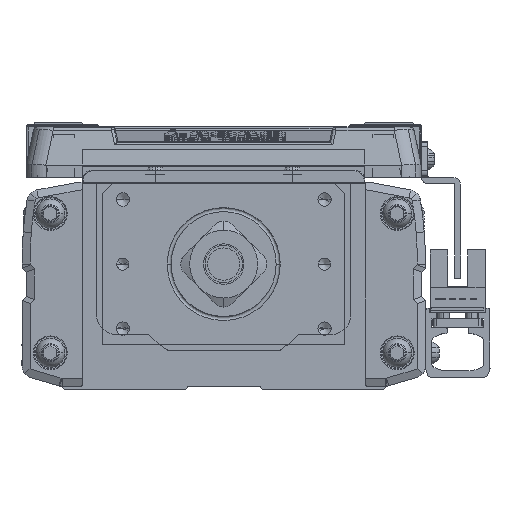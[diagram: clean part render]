
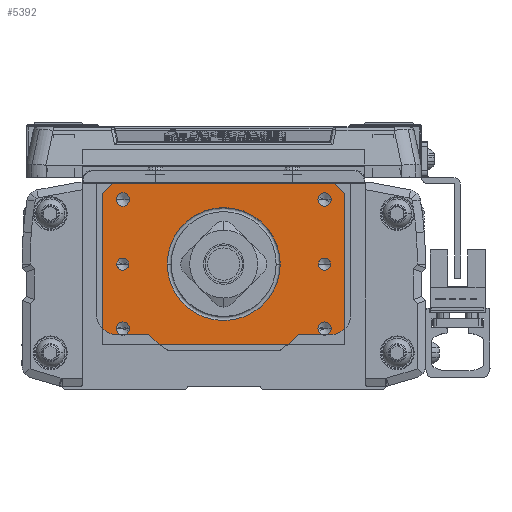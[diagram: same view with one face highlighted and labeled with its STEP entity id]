
A CAD part, left-side view. The second image highlights one B-rep face of the part: STEP entity #5392.
In plain terms, the highlighted planar face has unit normal (-1, 0, 0).
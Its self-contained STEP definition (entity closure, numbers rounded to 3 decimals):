
#5392=ADVANCED_FACE('',(#11856,#11857,#11858,#11859,#11860,#11861,#11862,#11863),#11864,.T.);
#11856=FACE_BOUND('',#20026,.T.);
#11857=FACE_BOUND('',#20027,.T.);
#11858=FACE_BOUND('',#20028,.T.);
#11859=FACE_BOUND('',#20029,.T.);
#11860=FACE_BOUND('',#20030,.T.);
#11861=FACE_BOUND('',#20031,.T.);
#11862=FACE_BOUND('',#20032,.T.);
#11863=FACE_OUTER_BOUND('',#20033,.T.);
#11864=PLANE('',#20034);
#20026=EDGE_LOOP('',(#34911,#34912));
#20027=EDGE_LOOP('',(#34913,#34914));
#20028=EDGE_LOOP('',(#34915,#34916));
#20029=EDGE_LOOP('',(#34917,#34918));
#20030=EDGE_LOOP('',(#34919,#34920));
#20031=EDGE_LOOP('',(#34921,#34922));
#20032=EDGE_LOOP('',(#34923,#34924,#34925));
#20033=EDGE_LOOP('',(#34926,#34927,#34928,#34929,#34930,#34931));
#20034=AXIS2_PLACEMENT_3D('',#34932,#34933,#34934);
#34911=ORIENTED_EDGE('',*,*,#47360,.T.);
#34912=ORIENTED_EDGE('',*,*,#50774,.T.);
#34913=ORIENTED_EDGE('',*,*,#52187,.T.);
#34914=ORIENTED_EDGE('',*,*,#48350,.T.);
#34915=ORIENTED_EDGE('',*,*,#52188,.T.);
#34916=ORIENTED_EDGE('',*,*,#48014,.T.);
#34917=ORIENTED_EDGE('',*,*,#52189,.T.);
#34918=ORIENTED_EDGE('',*,*,#48420,.T.);
#34919=ORIENTED_EDGE('',*,*,#52190,.T.);
#34920=ORIENTED_EDGE('',*,*,#47131,.T.);
#34921=ORIENTED_EDGE('',*,*,#49184,.T.);
#34922=ORIENTED_EDGE('',*,*,#52191,.T.);
#34923=ORIENTED_EDGE('',*,*,#52192,.T.);
#34924=ORIENTED_EDGE('',*,*,#51885,.T.);
#34925=ORIENTED_EDGE('',*,*,#52193,.T.);
#34926=ORIENTED_EDGE('',*,*,#49572,.F.);
#34927=ORIENTED_EDGE('',*,*,#48113,.F.);
#34928=ORIENTED_EDGE('',*,*,#52194,.T.);
#34929=ORIENTED_EDGE('',*,*,#52195,.T.);
#34930=ORIENTED_EDGE('',*,*,#52196,.F.);
#34931=ORIENTED_EDGE('',*,*,#52197,.T.);
#34932=CARTESIAN_POINT('',(-580.,0.,-20.));
#34933=DIRECTION('',(-1.0,0.,0.));
#34934=DIRECTION('',(0.,-1.0,0.));
#47131=EDGE_CURVE('',#56421,#56418,#56422,.T.);
#47360=EDGE_CURVE('',#56820,#56823,#56825,.T.);
#48014=EDGE_CURVE('',#57970,#57967,#57971,.T.);
#48113=EDGE_CURVE('',#58146,#58142,#58148,.T.);
#48350=EDGE_CURVE('',#58545,#58542,#58546,.T.);
#48420=EDGE_CURVE('',#58665,#58662,#58666,.T.);
#49184=EDGE_CURVE('',#59925,#59930,#59932,.T.);
#49572=EDGE_CURVE('',#58142,#60565,#60566,.T.);
#50774=EDGE_CURVE('',#56823,#56820,#62436,.T.);
#51885=EDGE_CURVE('',#64020,#64024,#64026,.T.);
#52187=EDGE_CURVE('',#58542,#58545,#64443,.T.);
#52188=EDGE_CURVE('',#57967,#57970,#64444,.T.);
#52189=EDGE_CURVE('',#58662,#58665,#64445,.T.);
#52190=EDGE_CURVE('',#56418,#56421,#64446,.T.);
#52191=EDGE_CURVE('',#59930,#59925,#64447,.T.);
#52192=EDGE_CURVE('',#64448,#64020,#64449,.T.);
#52193=EDGE_CURVE('',#64024,#64448,#64450,.T.);
#52194=EDGE_CURVE('',#58146,#64451,#64452,.T.);
#52195=EDGE_CURVE('',#64451,#64453,#64454,.T.);
#52196=EDGE_CURVE('',#64455,#64453,#64456,.T.);
#52197=EDGE_CURVE('',#64455,#60565,#64457,.T.);
#56418=VERTEX_POINT('',#69873);
#56421=VERTEX_POINT('',#69877);
#56422=CIRCLE('',#69878,1.65);
#56820=VERTEX_POINT('',#70370);
#56823=VERTEX_POINT('',#70374);
#56825=CIRCLE('',#70377,1.5);
#57967=VERTEX_POINT('',#72048);
#57970=VERTEX_POINT('',#72052);
#57971=CIRCLE('',#72053,1.65);
#58142=VERTEX_POINT('',#72277);
#58146=VERTEX_POINT('',#72283);
#58148=LINE('',#72286,#72287);
#58542=VERTEX_POINT('',#72846);
#58545=VERTEX_POINT('',#72850);
#58546=CIRCLE('',#72851,1.5);
#58662=VERTEX_POINT('',#73011);
#58665=VERTEX_POINT('',#73015);
#58666=CIRCLE('',#73016,1.65);
#59925=VERTEX_POINT('',#74797);
#59930=VERTEX_POINT('',#74803);
#59932=CIRCLE('',#74806,1.65);
#60565=VERTEX_POINT('',#75690);
#60566=LINE('',#75691,#75692);
#62436=CIRCLE('',#78242,1.5);
#64020=VERTEX_POINT('',#80517);
#64024=VERTEX_POINT('',#80521);
#64026=CIRCLE('',#80523,14.0);
#64443=CIRCLE('',#81191,1.5);
#64444=CIRCLE('',#81192,1.65);
#64445=CIRCLE('',#81193,1.65);
#64446=CIRCLE('',#81194,1.65);
#64447=CIRCLE('',#81195,1.65);
#64448=VERTEX_POINT('',#81196);
#64449=CIRCLE('',#81197,14.0);
#64450=CIRCLE('',#81198,14.0);
#64451=VERTEX_POINT('',#81199);
#64452=LINE('',#81200,#81201);
#64453=VERTEX_POINT('',#81202);
#64454=LINE('',#81203,#81204);
#64455=VERTEX_POINT('',#81205);
#64456=LINE('',#81206,#81207);
#64457=LINE('',#81208,#81209);
#69873=CARTESIAN_POINT('',(-580.,26.65,16.));
#69877=CARTESIAN_POINT('',(-580.,23.35,16.));
#69878=AXIS2_PLACEMENT_3D('',#87006,#87007,#87008);
#70370=CARTESIAN_POINT('',(-580.,-26.5,0.));
#70374=CARTESIAN_POINT('',(-580.,-23.5,0.));
#70377=AXIS2_PLACEMENT_3D('',#87384,#87385,#87386);
#72048=CARTESIAN_POINT('',(-580.,-26.65,-16.));
#72052=CARTESIAN_POINT('',(-580.,-23.35,-16.));
#72053=AXIS2_PLACEMENT_3D('',#88273,#88274,#88275);
#72277=CARTESIAN_POINT('',(-580.,30.,17.5));
#72283=CARTESIAN_POINT('',(-580.,30.,-20.));
#72286=CARTESIAN_POINT('',(-580.,30.,-20.));
#72287=VECTOR('',#88401,10.0);
#72846=CARTESIAN_POINT('',(-580.,26.5,0.));
#72850=CARTESIAN_POINT('',(-580.,23.5,0.));
#72851=AXIS2_PLACEMENT_3D('',#88699,#88700,#88701);
#73011=CARTESIAN_POINT('',(-580.,26.65,-16.));
#73015=CARTESIAN_POINT('',(-580.,23.35,-16.));
#73016=AXIS2_PLACEMENT_3D('',#88774,#88775,#88776);
#74797=CARTESIAN_POINT('',(-580.,-26.65,16.));
#74803=CARTESIAN_POINT('',(-580.,-23.35,16.));
#74806=AXIS2_PLACEMENT_3D('',#89827,#89828,#89829);
#75690=CARTESIAN_POINT('',(-580.,27.5,20.));
#75691=CARTESIAN_POINT('',(-580.,31.25,16.25));
#75692=VECTOR('',#90350,10.);
#78242=AXIS2_PLACEMENT_3D('',#91973,#91974,#91975);
#80517=CARTESIAN_POINT('',(-580.,14.,0.));
#80521=CARTESIAN_POINT('',(-580.,-14.,0.));
#80523=AXIS2_PLACEMENT_3D('',#93400,#93401,#93402);
#81191=AXIS2_PLACEMENT_3D('',#93748,#93749,#93750);
#81192=AXIS2_PLACEMENT_3D('',#93751,#93752,#93753);
#81193=AXIS2_PLACEMENT_3D('',#93754,#93755,#93756);
#81194=AXIS2_PLACEMENT_3D('',#93757,#93758,#93759);
#81195=AXIS2_PLACEMENT_3D('',#93760,#93761,#93762);
#81196=CARTESIAN_POINT('',(-580.,0.,-14.));
#81197=AXIS2_PLACEMENT_3D('',#93763,#93764,#93765);
#81198=AXIS2_PLACEMENT_3D('',#93766,#93767,#93768);
#81199=CARTESIAN_POINT('',(-580.,-30.,-20.));
#81200=CARTESIAN_POINT('',(-580.,30.,-20.));
#81201=VECTOR('',#93769,10.0);
#81202=CARTESIAN_POINT('',(-580.,-30.,17.5));
#81203=CARTESIAN_POINT('',(-580.,-30.,-20.));
#81204=VECTOR('',#93770,10.0);
#81205=CARTESIAN_POINT('',(-580.,-27.5,20.));
#81206=CARTESIAN_POINT('',(-580.,-31.25,16.25));
#81207=VECTOR('',#93771,10.);
#81208=CARTESIAN_POINT('',(-580.,30.,20.));
#81209=VECTOR('',#93772,10.0);
#87006=CARTESIAN_POINT('',(-580.,25.,16.));
#87007=DIRECTION('',(1.0,0.,0.));
#87008=DIRECTION('',(0.,1.0,0.));
#87384=CARTESIAN_POINT('',(-580.,-25.,0.));
#87385=DIRECTION('',(1.0,0.,0.));
#87386=DIRECTION('',(0.,-1.0,0.));
#88273=CARTESIAN_POINT('',(-580.,-25.,-16.));
#88274=DIRECTION('',(1.0,0.,0.));
#88275=DIRECTION('',(0.,-1.0,0.));
#88401=DIRECTION('',(0.,0.,1.0));
#88699=CARTESIAN_POINT('',(-580.,25.,0.));
#88700=DIRECTION('',(1.0,0.,0.));
#88701=DIRECTION('',(0.,1.0,0.));
#88774=CARTESIAN_POINT('',(-580.,25.,-16.));
#88775=DIRECTION('',(1.0,0.,0.));
#88776=DIRECTION('',(0.,1.0,0.));
#89827=CARTESIAN_POINT('',(-580.,-25.,16.));
#89828=DIRECTION('',(1.0,0.,0.));
#89829=DIRECTION('',(0.,-1.0,0.));
#90350=DIRECTION('',(0.,-0.707,0.707));
#91973=CARTESIAN_POINT('',(-580.,-25.,0.));
#91974=DIRECTION('',(1.0,0.,0.));
#91975=DIRECTION('',(0.,-1.0,0.));
#93400=CARTESIAN_POINT('',(-580.,0.,0.));
#93401=DIRECTION('',(1.0,0.,0.));
#93402=DIRECTION('',(0.,0.,1.0));
#93748=CARTESIAN_POINT('',(-580.,25.,0.));
#93749=DIRECTION('',(1.0,0.,0.));
#93750=DIRECTION('',(0.,1.0,0.));
#93751=CARTESIAN_POINT('',(-580.,-25.,-16.));
#93752=DIRECTION('',(1.0,0.,0.));
#93753=DIRECTION('',(0.,-1.0,0.));
#93754=CARTESIAN_POINT('',(-580.,25.,-16.));
#93755=DIRECTION('',(1.0,0.,0.));
#93756=DIRECTION('',(0.,1.0,0.));
#93757=CARTESIAN_POINT('',(-580.,25.,16.));
#93758=DIRECTION('',(1.0,0.,0.));
#93759=DIRECTION('',(0.,1.0,0.));
#93760=CARTESIAN_POINT('',(-580.,-25.,16.));
#93761=DIRECTION('',(1.0,0.,0.));
#93762=DIRECTION('',(0.,-1.0,0.));
#93763=CARTESIAN_POINT('',(-580.,0.,0.));
#93764=DIRECTION('',(1.0,0.,0.));
#93765=DIRECTION('',(0.,0.,1.0));
#93766=CARTESIAN_POINT('',(-580.,0.,0.));
#93767=DIRECTION('',(1.0,0.,0.));
#93768=DIRECTION('',(0.,0.,1.0));
#93769=DIRECTION('',(0.,-1.0,0.));
#93770=DIRECTION('',(0.,0.,1.0));
#93771=DIRECTION('',(0.0,-0.707,-0.707));
#93772=DIRECTION('',(0.,1.0,0.));
